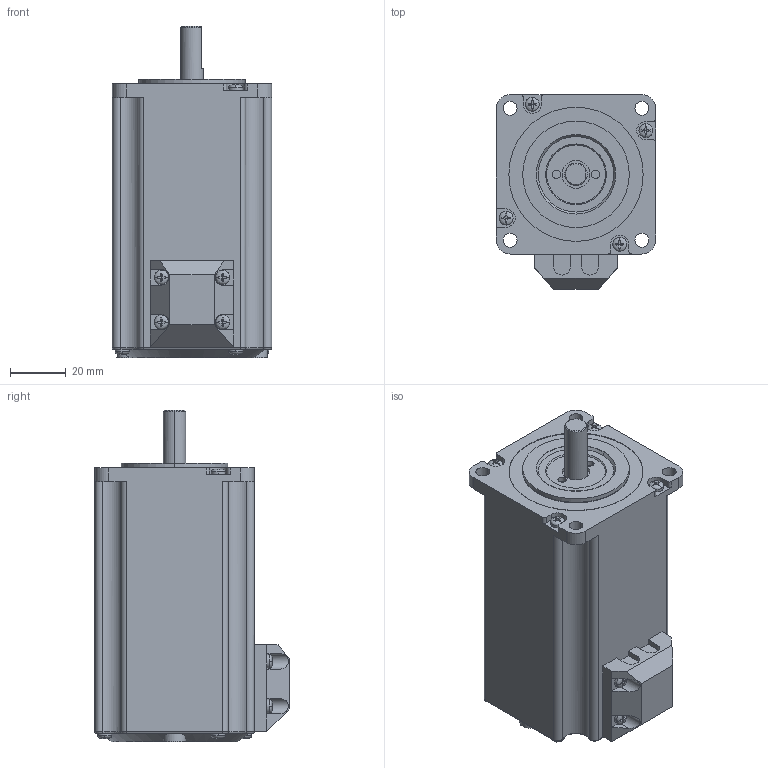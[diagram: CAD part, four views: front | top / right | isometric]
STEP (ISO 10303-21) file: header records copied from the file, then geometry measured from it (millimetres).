
FILE_DESCRIPTION((''),'2;1');
FILE_NAME('QL57HS76_ASM','2021-11-11T14:00:56',('qingl'),(''),'CREO PARAMETRIC BY PTC INC, 2019224','CREO PARAMETRIC BY PTC INC, 2019224','');
FILE_SCHEMA(('CONFIG_CONTROL_DESIGN'));
Length unit declared in the file: millimetre
Products named in the file (15): ABCD0E94C2B2YBK1_1; ABCD0E94C2B2YBK1_2; ABCD0E94C2B2YBK1_3; ABCD0E94C2B2YBK1_4; ABCD0E94C2B2YBK1_5; ABCD0E94C2B2YBK1_6; ABCD0E94C2B2YBK1_7; ABCD0E94C2B2YBK1_8; ABCD0E94C2B2YBK1_9; ABCD0E94C2B2YBK1_10; ABCD0E94C2B2YBK1_11; ABCD0E94C2B2YBK1_12; ABCD0E94C2B2YBK1_13; ABCD0E94C2B2YBK1_ASM; QL57HS76_ASM
Assembly tree (14 placements, depth 3):
  QL57HS76_ASM
    ABCD0E94C2B2YBK1_ASM
      ABCD0E94C2B2YBK1_1
      ABCD0E94C2B2YBK1_2
      ABCD0E94C2B2YBK1_3
      ABCD0E94C2B2YBK1_4
      ABCD0E94C2B2YBK1_5
      ABCD0E94C2B2YBK1_6
      ABCD0E94C2B2YBK1_7
      ABCD0E94C2B2YBK1_8
      ABCD0E94C2B2YBK1_9
      ABCD0E94C2B2YBK1_10
      ABCD0E94C2B2YBK1_11
      ABCD0E94C2B2YBK1_12
      ABCD0E94C2B2YBK1_13
Bounding box: 57 x 69.5 x 118.5 mm (x, y, z)
Volume: 291421.9 mm3; surface area: 32205.8 mm2
Topology: 13 solids, 13 shells, 592 faces, 1626 edges, 1067 vertices
Faces by surface type: cylinder 276, plane 241, cone 31, revolution 24, torus 12, bspline 8
Entity records: 24540 total; most frequent: CARTESIAN_POINT 10285, ORIENTED_EDGE 3204, DIRECTION 2486, EDGE_CURVE 1602, VERTEX_POINT 1067, AXIS2_PLACEMENT_3D 938, B_SPLINE_CURVE_WITH_KNOTS 704, EDGE_LOOP 631
